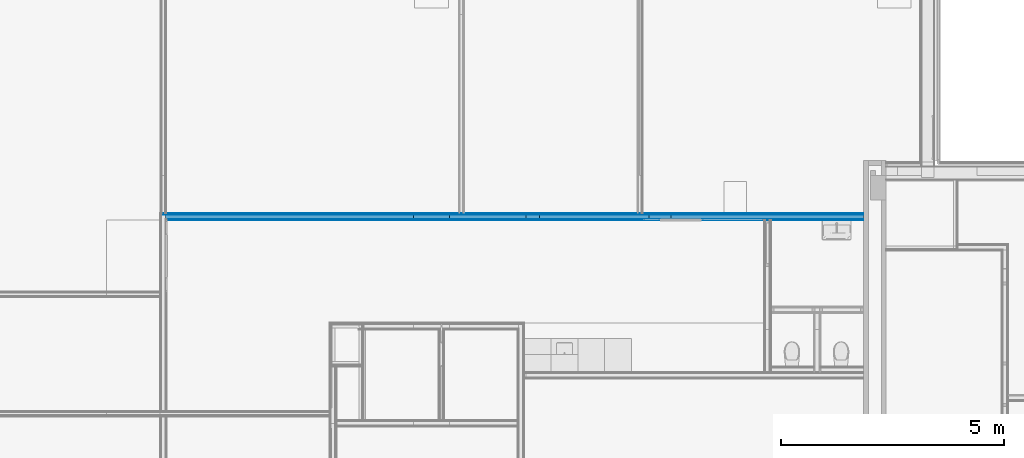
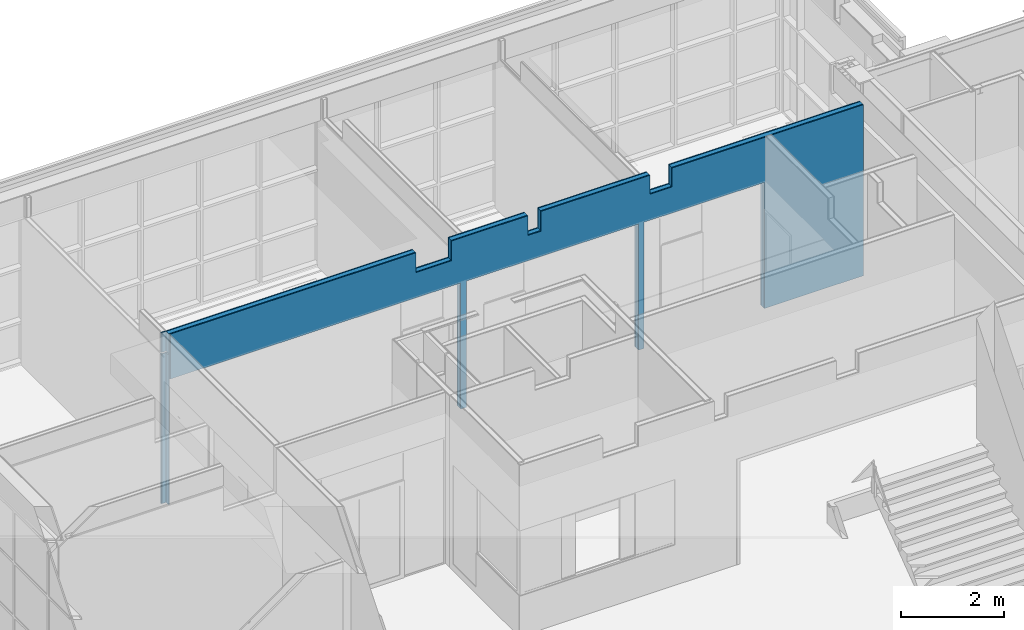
# One storey, part 47 of 109: 5 building element parts, 3 openings, 1 element without a shape of its own.
"""IFC2X3 building model written with IfcOpenShell, lengths in millimetres."""

from ifc_helpers import new_model, entity, si_unit, converted_unit, derived_unit, money_unit, direction, frame, origin_with_axes, place, context, subcontext, project, spatial, faceted_brep, material, type_object, element, aggregate, save


model = new_model("IFC2X3")

# Units and contexts
model_context = context("Model", 3, precision=0.01, world=origin_with_axes(), true_north=direction((0.0, 1.0)))
body_context = subcontext(model_context, "Body", "Model", "MODEL_VIEW")
ifc_project = project(units=[si_unit("LENGTHUNIT", "METRE", prefix="MILLI"), si_unit("AREAUNIT", "SQUARE_METRE"), si_unit("VOLUMEUNIT", "CUBIC_METRE"), converted_unit("PLANEANGLEUNIT", "DEGREE", entity("IfcPlaneAngleMeasure", 0.0174532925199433), si_unit("PLANEANGLEUNIT", "RADIAN"), dimensions=[0, 0, 0, 0, 0, 0, 0]), money_unit("EUR"), converted_unit("TIMEUNIT", "Year", entity("IfcTimeMeasure", 31557600.0), si_unit("TIMEUNIT", "SECOND"), dimensions=[0, 0, 1, 0, 0, 0, 0]), si_unit("MASSUNIT", "GRAM", prefix="KILO"), si_unit("THERMODYNAMICTEMPERATUREUNIT", "DEGREE_CELSIUS"), si_unit("LUMINOUSINTENSITYUNIT", "LUMEN"), si_unit("ENERGYUNIT", "JOULE", prefix="MEGA"), derived_unit("THERMALCONDUCTANCEUNIT", [(si_unit("POWERUNIT", "WATT"), 1), (si_unit("LENGTHUNIT", "METRE"), -1), (si_unit("THERMODYNAMICTEMPERATUREUNIT", "KELVIN"), -1)]), derived_unit("SPECIFICHEATCAPACITYUNIT", [(si_unit("ENERGYUNIT", "JOULE"), 1), (si_unit("MASSUNIT", "GRAM", prefix="KILO"), -1), (si_unit("THERMODYNAMICTEMPERATUREUNIT", "KELVIN"), -1)]), derived_unit("MASSDENSITYUNIT", [(si_unit("MASSUNIT", "GRAM", prefix="KILO"), 1), (si_unit("VOLUMEUNIT", "CUBIC_METRE"), -1)])], contexts=[model_context])

# Site, building, storey
site_placement = place(None, origin_with_axes())
site = spatial("IfcSite", under=ifc_project, at=site_placement, Name="<site naam>", CompositionType="ELEMENT")
building_placement = place(site_placement, origin_with_axes())
building = spatial("IfcBuilding", under=site, at=building_placement, Name="<Naam gebouw>", CompositionType="ELEMENT")
storey_placement = place(building_placement, origin_with_axes())
storey = spatial("IfcBuildingStorey", under=building, at=storey_placement, Name="00 Begane grond", CompositionType="ELEMENT", Elevation=0.0)

# Wall, openings, building element parts
wall_type = type_object("IfcWallType", Name="MS-01 GF 150 ECO DGS/2.100.2.A 150", PredefinedType="NOTDEFINED")
wall_placement = place(storey_placement, frame((11665.00000000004, 18999.99999999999, 0.0), z_axis=(0.0, 0.0, 1.0), x_axis=(-1.0, 0.0, 0.0)))
wall = element("IfcWall", 1, at=wall_placement, inside=storey, type_object=wall_type, Name="22_Binnenwand_MS-01")
opening_1_placement = place(wall_placement, frame((3581.926295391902, 0.0, 0.0), z_axis=(0.0, 0.0, 1.0), x_axis=(1.0, 0.0, 0.0)))
element("IfcOpeningElement", 2, at=opening_1_placement, cuts=wall, Name="22_BI-F-07_305", context=body_context, shape_type="Brep", body=[
    faceted_brep([(-1353.907037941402, -150.9999999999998, 3000.0), (-1353.907037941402, -150.9999999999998, 0.0), (1353.907037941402, -150.9999999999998, 0.0), (1353.907037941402, -150.9999999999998, 3000.0), (-1353.907037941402, 1.000000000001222, 3000.0), (-1353.907037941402, 1.000000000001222, 0.0), (1353.907037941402, 1.000000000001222, 0.0), (1353.907037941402, 1.000000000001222, 3000.0)], [[[0, 1, 2, 3]], [[4, 5, 1, 0]], [[5, 6, 2, 1]], [[6, 7, 3, 2]], [[7, 4, 0, 3]], [[6, 5, 4, 7]]]),
])
opening_2_placement = place(wall_placement, frame((12331.66666666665, 0.0, 0.0), z_axis=(0.0, 0.0, 1.0), x_axis=(1.0, 0.0, 0.0)))
element("IfcOpeningElement", 3, at=opening_2_placement, cuts=wall, Name="22_BI-F-04_305", context=body_context, shape_type="Brep", body=[
    faceted_brep([(-3270.833333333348, -151.0000000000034, 3000.0), (-3270.833333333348, -151.0000000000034, 0.0), (3270.833333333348, -151.0000000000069, 0.0), (3270.833333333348, -151.0000000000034, 3000.0), (-3270.833333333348, 1.000000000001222, 3000.0), (-3270.833333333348, 1.000000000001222, 0.0), (3270.833333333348, 0.9999999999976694, 0.0), (3270.833333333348, 1.000000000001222, 3000.0)], [[[0, 1, 2, 3]], [[4, 5, 1, 0]], [[5, 6, 2, 1]], [[6, 7, 3, 2]], [[7, 4, 0, 3]], [[6, 5, 4, 7]]]),
])
opening_3_placement = place(wall_placement, frame((6998.333333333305, 0.0, 0.0), z_axis=(0.0, 0.0, 1.0), x_axis=(1.0, 0.0, 0.0)))
element("IfcOpeningElement", 4, at=opening_3_placement, cuts=wall, Name="22_BI-F-05_305", context=body_context, shape_type="Brep", body=[
    faceted_brep([(-1937.499999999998, -150.9999999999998, 3000.0), (-1937.499999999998, -150.9999999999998, 0.0), (1937.499999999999, -150.9999999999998, 0.0), (1937.499999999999, -150.9999999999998, 3000.0), (-1937.499999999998, 1.000000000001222, 3000.0), (-1937.499999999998, 1.000000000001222, 0.0), (1937.499999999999, 1.000000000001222, 0.0), (1937.499999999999, 1.000000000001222, 3000.0)], [[[0, 1, 2, 3]], [[4, 5, 1, 0]], [[5, 6, 2, 1]], [[6, 7, 3, 2]], [[7, 4, 0, 3]], [[6, 5, 4, 7]]]),
])
ifc_material_1 = material(Name="gipsplaat")
building_element_part_1_placement = place(wall_placement, origin_with_axes())
building_element_part_1 = element("IfcBuildingElementPart", 5, at=building_element_part_1_placement, material=ifc_material_1, Name="gipsplaat", context=body_context, shape_type="Brep", body=[
    faceted_brep([(4802.5, -12.49999999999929, 4070.0), (4802.5, -12.49999999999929, 3620.0), (4302.5, -12.49999999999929, 3620.0), (4302.5, -12.49999999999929, 4070.0), (0.0, -12.49999999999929, 4070.0), (0.0, -12.49999999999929, 0.0), (2218.019240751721, -12.49999999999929, 0.0), (2218.019240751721, -12.49999999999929, 3.000000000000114), (4935.833333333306, -12.49999999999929, 3.000000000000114), (4935.833333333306, -12.49999999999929, 0.0), (5060.83331531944, -12.49999999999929, 0.0), (5060.83331531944, -12.49999999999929, 3.000000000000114), (8935.833333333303, -12.49999999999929, 3.000000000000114), (8935.833333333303, -12.49999999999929, 0.0), (9060.833333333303, -12.49999999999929, 0.0), (9060.833333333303, -12.49999999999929, 3.000000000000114), (15590.0, -12.49999999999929, 3.000000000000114), (15590.0, -12.49999999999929, 4070.0), (10065.00000000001, -12.49999999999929, 4070.0), (10065.00000000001, -12.49999999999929, 3600.0), (9265.000000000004, -12.49999999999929, 3600.0), (9265.000000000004, -12.49999999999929, 4070.0), (7550.000000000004, -12.49999999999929, 4070.0), (7550.000000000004, -12.49999999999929, 3600.0), (7250.000000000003, -12.49999999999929, 3600.0), (7250.000000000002, -12.49999999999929, 4070.0), (4802.5, 0.0, 3620.0), (4802.5, 0.0, 4070.0), (4302.5, 0.0, 3620.0), (4302.5, 0.0, 4070.0), (0.0, 0.0, 4070.0), (0.0, 0.0, 0.0), (2218.019240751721, 0.0, 0.0), (2218.019240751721, 0.0, 3.000000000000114), (4935.833333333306, 0.0, 3.000000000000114), (4935.833333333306, 0.0, 0.0), (5060.83331531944, 0.005247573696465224, 0.0), (5060.83331531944, 0.005247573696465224, 3.000000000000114), (8935.833333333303, 7.570282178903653e-06, 3.000000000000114), (8935.833333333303, 7.570282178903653e-06, 0.0), (9060.833333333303, 0.0, 0.0), (9060.833333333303, 0.0, 3.000000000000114), (15589.99999996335, -0.01546946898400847, 3.000000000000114), (15590.0, 0.0, 4070.0), (10065.00000000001, 0.0, 4070.0), (10065.00000000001, 0.0, 3600.0), (9265.000000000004, 0.0, 3600.0), (9265.000000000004, 0.0, 4070.0), (7550.000000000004, 0.0, 4070.0), (7550.000000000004, 0.0, 3600.0), (7250.000000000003, 0.0, 3600.0), (7250.000000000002, 0.0, 4070.0)], [[[0, 1, 2, 3, 4, 5, 6, 7, 8, 9, 10, 11, 12, 13, 14, 15, 16, 17, 18, 19, 20, 21, 22, 23, 24, 25]], [[26, 1, 0, 27]], [[28, 2, 1, 26]], [[28, 29, 3, 2]], [[4, 3, 29, 30]], [[4, 30, 31, 5]], [[31, 32, 6, 5]], [[33, 7, 6, 32]], [[34, 8, 7, 33]], [[35, 9, 8, 34]], [[36, 10, 9, 35]], [[11, 10, 36, 37]], [[12, 11, 37, 38]], [[13, 12, 38, 39]], [[14, 13, 39, 40]], [[14, 40, 41, 15]], [[15, 41, 42, 16]], [[42, 43, 17, 16]], [[17, 43, 44, 18]], [[44, 45, 19, 18]], [[45, 46, 20, 19]], [[20, 46, 47, 21]], [[21, 47, 48, 22]], [[48, 49, 23, 22]], [[49, 50, 24, 23]], [[24, 50, 51, 25]], [[51, 27, 0, 25]], [[28, 26, 27, 51, 50, 49, 48, 47, 46, 45, 44, 43, 34, 33, 32, 31, 30, 29]], [[36, 35, 34, 37]], [[39, 38, 37, 43, 42, 41, 40]], [[37, 34, 43]]]),
])
building_element_part_2_placement = place(wall_placement, origin_with_axes())
building_element_part_2 = element("IfcBuildingElementPart", 6, at=building_element_part_2_placement, material=ifc_material_1, Name="gipsplaat", context=body_context, shape_type="Brep", body=[
    faceted_brep([(4802.5, -24.99999999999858, 4070.0), (4802.5, -25.00000000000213, 3620.0), (4302.5, -25.00000000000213, 3620.0), (4302.5, -24.99999999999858, 4070.0), (0.0, -24.99999999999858, 4070.0), (0.0, -24.99999999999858, 0.0), (2218.019240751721, -24.99999999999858, 0.0), (2218.019240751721, -25.00000000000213, 3.000000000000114), (4935.833333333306, -25.00000000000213, 3.000000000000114), (4935.833333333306, -24.99999999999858, 0.0), (5060.83331531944, -24.99999999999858, 0.0), (5060.83331531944, -25.00000000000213, 3.000000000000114), (8935.833333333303, -25.00000000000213, 3.000000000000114), (8935.833333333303, -25.00000000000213, 0.0), (9060.833333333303, -25.00000000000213, 0.0), (9060.833333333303, -25.00000000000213, 3.000000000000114), (15602.5, -25.00000000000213, 3.000000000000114), (15602.5, -25.00000000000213, 3560.0), (15590.0000000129, -25.00000000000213, 3560.0), (15590.0000000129, -25.00000000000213, 3600.0), (15602.5, -25.00000000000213, 3600.0), (15602.5, -25.00000000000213, 4070.0), (10065.00000000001, -24.99999999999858, 4070.0), (10065.00000000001, -25.00000000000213, 3600.0), (9265.000000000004, -25.00000000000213, 3600.0), (9265.000000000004, -24.99999999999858, 4070.0), (7550.000000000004, -24.99999999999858, 4070.0), (7550.000000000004, -25.00000000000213, 3600.0), (7250.000000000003, -25.00000000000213, 3600.0), (7250.000000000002, -24.99999999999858, 4070.0), (4802.5, -12.49999999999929, 3620.0), (4802.5, -12.49999999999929, 4070.0), (4302.5, -12.49999999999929, 3620.0), (4302.5, -12.49999999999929, 4070.0), (0.0, -12.49999999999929, 4070.0), (0.0, -12.49999999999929, 0.0), (2218.019240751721, -12.49999999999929, 0.0), (2218.019240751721, -12.49999999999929, 3.000000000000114), (4935.833333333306, -12.49999999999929, 3.000000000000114), (4935.833333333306, -12.49999999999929, 0.0), (5060.83331531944, -12.49999999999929, 0.0), (5060.83331531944, -12.49999999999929, 3.000000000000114), (8935.833333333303, -12.49999999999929, 3.000000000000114), (8935.833333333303, -12.49999999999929, 0.0), (9060.833333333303, -12.49999999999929, 0.0), (9060.833333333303, -12.49999999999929, 3.000000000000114), (15602.5, -12.49999999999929, 3.000000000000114), (15602.5, -12.49999999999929, 3560.0), (15589.99999999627, -12.49999999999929, 3560.0), (15589.99999999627, -12.49999999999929, 3600.0), (15602.5, -12.49999999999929, 3600.0), (15602.5, -12.49999999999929, 4070.0), (10065.00000000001, -12.49999999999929, 4070.0), (10065.00000000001, -12.49999999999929, 3600.0), (9265.000000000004, -12.49999999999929, 3600.0), (9265.000000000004, -12.49999999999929, 4070.0), (7550.000000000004, -12.49999999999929, 4070.0), (7550.000000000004, -12.49999999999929, 3600.0), (7250.000000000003, -12.49999999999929, 3600.0), (7250.000000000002, -12.49999999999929, 4070.0)], [[[0, 1, 2, 3, 4, 5, 6, 7, 8, 9, 10, 11, 12, 13, 14, 15, 16, 17, 18, 19, 20, 21, 22, 23, 24, 25, 26, 27, 28, 29]], [[30, 1, 0, 31]], [[32, 2, 1, 30]], [[32, 33, 3, 2]], [[4, 3, 33, 34]], [[4, 34, 35, 5]], [[6, 5, 35, 36]], [[6, 36, 37, 7]], [[7, 37, 38, 8]], [[8, 38, 39, 9]], [[10, 9, 39, 40]], [[10, 40, 41, 11]], [[11, 41, 42, 12]], [[12, 42, 43, 13]], [[14, 13, 43, 44]], [[14, 44, 45, 15]], [[15, 45, 46, 16]], [[17, 16, 46, 47]], [[17, 47, 48, 18]], [[18, 48, 49, 19]], [[19, 49, 50, 20]], [[50, 51, 21, 20]], [[21, 51, 52, 22]], [[52, 53, 23, 22]], [[53, 54, 24, 23]], [[24, 54, 55, 25]], [[25, 55, 56, 26]], [[56, 57, 27, 26]], [[57, 58, 28, 27]], [[28, 58, 59, 29]], [[59, 31, 0, 29]], [[32, 30, 31, 59, 58, 57, 56, 55, 54, 53, 52, 51, 50, 49, 48, 47, 46, 45, 44, 43, 42, 41, 40, 39, 38, 37, 36, 35, 34, 33]]]),
])
building_element_part_3_placement = place(wall_placement, origin_with_axes())
building_element_part_3 = element("IfcBuildingElementPart", 7, at=building_element_part_3_placement, material=ifc_material_1, Name="gipsplaat", context=body_context, shape_type="Brep", body=[
    faceted_brep([(4802.5, -137.4999999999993, 4070.0), (4802.5, -137.4999999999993, 3620.0), (4302.5, -137.4999999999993, 3620.0), (4302.5, -137.4999999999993, 4070.0), (0.0, -137.4999999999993, 4070.0), (0.0, -137.4999999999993, 0.0), (2218.019240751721, -137.4999999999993, 0.0), (2218.019240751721, -137.4999999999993, 3.000000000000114), (4935.833333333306, -137.4999999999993, 3.000000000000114), (4935.833333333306, -137.4999999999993, 0.0), (5060.83331531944, -137.4999999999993, 0.0), (5060.83331531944, -137.4999999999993, 3.000000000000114), (8935.833333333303, -137.4999999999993, 3.000000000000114), (8935.833333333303, -137.4999999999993, 0.0), (9060.833333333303, -137.4999999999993, 0.0), (9060.833333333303, -137.4999999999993, 3.000000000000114), (15602.5, -137.4999999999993, 3.000000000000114), (15602.5, -137.4999999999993, 0.0), (15715.0, -137.4999999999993, 0.0), (15715.0, -137.4999999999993, 3560.0), (15590.00000016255, -137.4999999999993, 3560.0), (15590.00000016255, -137.4999999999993, 3600.0), (15715.0, -137.4999999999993, 3600.0), (15715.0, -137.4999999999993, 4070.0), (10065.00000000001, -137.4999999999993, 4070.0), (10065.00000000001, -137.4999999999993, 3600.0), (9265.000000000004, -137.4999999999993, 3600.0), (9265.000000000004, -137.4999999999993, 4070.0), (7550.000000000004, -137.4999999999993, 4070.0), (7550.000000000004, -137.4999999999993, 3600.0), (7250.000000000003, -137.4999999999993, 3600.0), (7250.000000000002, -137.4999999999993, 4070.0), (4802.5, -125.0, 3620.0), (4802.5, -125.0, 4070.0), (4302.5, -125.0, 3620.0), (4302.5, -125.0, 4070.0), (0.0, -125.0, 4070.0), (0.0, -125.0, 0.0), (2218.019240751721, -125.0, 0.0), (2218.019240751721, -125.0, 3.000000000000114), (4935.833333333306, -125.0, 3.000000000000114), (4935.833333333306, -125.0, 0.0), (5060.83331531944, -125.0, 0.0), (5060.83331531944, -125.0, 3.000000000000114), (8935.833333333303, -125.0, 3.000000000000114), (8935.833333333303, -125.0, 0.0), (9060.833333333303, -125.0, 0.0), (9060.833333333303, -125.0, 3.000000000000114), (15602.5, -125.0, 3.000000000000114), (15602.5, -125.0, 0.0), (15715.0, -125.0, 0.0), (15715.0, -125.0, 3560.0), (15590.00000014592, -125.0, 3560.0), (15590.00000014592, -125.0, 3600.0), (15715.0, -125.0, 3600.0), (15715.0, -125.0, 4070.0), (10065.00000000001, -125.0, 4070.0), (10065.00000000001, -125.0, 3600.0), (9265.000000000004, -125.0, 3600.0), (9265.000000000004, -125.0, 4070.0), (7550.000000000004, -125.0, 4070.0), (7550.000000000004, -125.0, 3600.0), (7250.000000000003, -125.0, 3600.0), (7250.000000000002, -125.0, 4070.0)], [[[0, 1, 2, 3, 4, 5, 6, 7, 8, 9, 10, 11, 12, 13, 14, 15, 16, 17, 18, 19, 20, 21, 22, 23, 24, 25, 26, 27, 28, 29, 30, 31]], [[32, 1, 0, 33]], [[34, 2, 1, 32]], [[34, 35, 3, 2]], [[4, 3, 35, 36]], [[4, 36, 37, 5]], [[6, 5, 37, 38]], [[6, 38, 39, 7]], [[7, 39, 40, 8]], [[8, 40, 41, 9]], [[10, 9, 41, 42]], [[10, 42, 43, 11]], [[11, 43, 44, 12]], [[12, 44, 45, 13]], [[14, 13, 45, 46]], [[14, 46, 47, 15]], [[15, 47, 48, 16]], [[16, 48, 49, 17]], [[49, 50, 18, 17]], [[19, 18, 50, 51]], [[19, 51, 52, 20]], [[20, 52, 53, 21]], [[21, 53, 54, 22]], [[54, 55, 23, 22]], [[23, 55, 56, 24]], [[56, 57, 25, 24]], [[57, 58, 26, 25]], [[26, 58, 59, 27]], [[27, 59, 60, 28]], [[60, 61, 29, 28]], [[61, 62, 30, 29]], [[30, 62, 63, 31]], [[63, 33, 0, 31]], [[34, 32, 33, 63, 62, 61, 60, 59, 58, 57, 56, 55, 54, 53, 52, 51, 50, 49, 48, 47, 46, 45, 44, 43, 42, 41, 40, 39, 38, 37, 36, 35]]]),
])
ifc_material_2 = material(Name="isolatie_steenwol LSW")
building_element_part_4_placement = place(wall_placement, origin_with_axes())
building_element_part_4 = element("IfcBuildingElementPart", 8, at=building_element_part_4_placement, material=ifc_material_2, Name="isolatie_steenwol LSW", context=body_context, shape_type="Brep", body=[
    faceted_brep([(4802.5, -125.0, 4070.0), (4802.5, -125.0, 3620.0), (4302.5, -125.0, 3620.0), (4302.5, -125.0, 4070.0), (0.0, -125.0, 4070.0), (0.0, -125.0, 0.0), (2218.019240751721, -125.0, 0.0), (2218.019240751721, -125.0, 3.000000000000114), (4935.833333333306, -125.0, 3.000000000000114), (4935.833333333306, -125.0, 0.0), (5060.83331531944, -125.0, 0.0), (5060.83331531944, -125.0, 3.000000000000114), (8935.833333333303, -125.0, 3.000000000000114), (8935.833333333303, -125.0, 0.0), (9060.833333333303, -125.0, 0.0), (9060.833333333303, -125.0, 3.000000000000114), (15602.5, -125.0, 3.000000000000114), (15602.5, -125.0, 0.0), (15615.0, -125.0, 0.0), (15615.0, -125.0, 3560.0), (15590.00000014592, -125.0, 3560.0), (15590.00000014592, -125.0, 3600.0), (15615.0, -125.0, 3600.0), (15615.0, -125.0, 4070.0), (10065.00000000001, -125.0, 4070.0), (10065.00000000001, -125.0, 3600.0), (9265.000000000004, -125.0, 3600.0), (9265.000000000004, -125.0, 4070.0), (7550.000000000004, -125.0, 4070.0), (7550.000000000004, -125.0, 3600.0), (7250.000000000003, -125.0, 3600.0), (7250.000000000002, -125.0, 4070.0), (4802.5, -25.00000000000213, 3620.0), (4802.5, -24.99999999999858, 4070.0), (4302.5, -25.00000000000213, 3620.0), (4302.5, -24.99999999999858, 4070.0), (0.0, -24.99999999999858, 4070.0), (0.0, -24.99999999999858, 0.0), (2218.019240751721, -24.99999999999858, 0.0), (2218.019240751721, -25.00000000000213, 3.000000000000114), (4935.833333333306, -25.00000000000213, 3.000000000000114), (4935.833333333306, -24.99999999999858, 0.0), (5060.83331531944, -24.99999999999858, 0.0), (5060.83331531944, -25.00000000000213, 3.000000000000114), (8935.833333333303, -25.00000000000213, 3.000000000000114), (8935.833333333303, -24.99999999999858, 0.0), (9060.833333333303, -24.99999999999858, 0.0), (9060.833333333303, -25.00000000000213, 3.000000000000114), (15602.5, -25.00000000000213, 3.000000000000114), (15602.5, -25.00000000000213, 0.0), (15615.0, -25.00000000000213, 0.0), (15615.0, -25.00000000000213, 3560.0), (15590.0000000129, -25.00000000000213, 3560.0), (15590.0000000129, -25.00000000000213, 3600.0), (15615.0, -25.00000000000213, 3600.0), (15615.0, -25.00000000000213, 4070.0), (10065.00000000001, -24.99999999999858, 4070.0), (10065.00000000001, -25.00000000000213, 3600.0), (9265.000000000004, -25.00000000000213, 3600.0), (9265.000000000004, -24.99999999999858, 4070.0), (7550.000000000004, -24.99999999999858, 4070.0), (7550.000000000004, -25.00000000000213, 3600.0), (7250.000000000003, -25.00000000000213, 3600.0), (7250.000000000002, -24.99999999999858, 4070.0)], [[[0, 1, 2, 3, 4, 5, 6, 7, 8, 9, 10, 11, 12, 13, 14, 15, 16, 17, 18, 19, 20, 21, 22, 23, 24, 25, 26, 27, 28, 29, 30, 31]], [[32, 1, 0, 33]], [[34, 2, 1, 32]], [[34, 35, 3, 2]], [[4, 3, 35, 36]], [[4, 36, 37, 5]], [[6, 5, 37, 38]], [[6, 38, 39, 7]], [[7, 39, 40, 8]], [[8, 40, 41, 9]], [[10, 9, 41, 42]], [[10, 42, 43, 11]], [[11, 43, 44, 12]], [[12, 44, 45, 13]], [[14, 13, 45, 46]], [[14, 46, 47, 15]], [[15, 47, 48, 16]], [[16, 48, 49, 17]], [[49, 50, 18, 17]], [[19, 18, 50, 51]], [[19, 51, 52, 20]], [[20, 52, 53, 21]], [[21, 53, 54, 22]], [[54, 55, 23, 22]], [[23, 55, 56, 24]], [[56, 57, 25, 24]], [[57, 58, 26, 25]], [[26, 58, 59, 27]], [[27, 59, 60, 28]], [[60, 61, 29, 28]], [[61, 62, 30, 29]], [[30, 62, 63, 31]], [[63, 33, 0, 31]], [[34, 32, 33, 63, 62, 61, 60, 59, 58, 57, 56, 55, 54, 53, 52, 51, 50, 49, 48, 47, 46, 45, 44, 43, 42, 41, 40, 39, 38, 37, 36, 35]]]),
])
building_element_part_5_placement = place(wall_placement, origin_with_axes())
building_element_part_5 = element("IfcBuildingElementPart", 9, at=building_element_part_5_placement, material=ifc_material_1, Name="gipsplaat", context=body_context, shape_type="Brep", body=[
    faceted_brep([(4802.5, -149.9999999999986, 4070.0), (4802.5, -150.0000000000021, 3620.0), (4302.5, -150.0000000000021, 3620.0), (4302.5, -149.9999999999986, 4070.0), (0.0, -149.9999999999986, 4070.0), (0.0, -149.9999999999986, 0.0), (2218.019240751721, -149.9999999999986, 0.0), (2218.019240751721, -150.0000000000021, 3.000000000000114), (4935.833333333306, -150.0000000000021, 3.000000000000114), (4935.833333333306, -149.9999999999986, 0.0), (5060.83331531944, -149.9999999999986, 0.0), (5060.83331531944, -150.0000000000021, 3.000000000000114), (8935.833333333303, -150.0000000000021, 3.000000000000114), (8935.833333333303, -149.9999999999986, 0.0), (9060.833333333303, -149.9999999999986, 0.0), (9060.833333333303, -150.0000000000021, 3.000000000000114), (15602.5, -150.0000000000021, 3.000000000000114), (15602.5, -150.0000000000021, 0.0), (15727.5, -150.0000000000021, 0.0), (15727.5, -150.0000000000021, 3560.0), (15590.00000017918, -150.0000006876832, 3560.0), (15590.00000017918, -150.0000006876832, 3600.0), (15727.5, -150.0000000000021, 3600.0), (15727.5, -150.0000000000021, 4070.0), (10065.00000000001, -149.9999999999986, 4070.0), (10065.00000000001, -150.0000000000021, 3600.0), (9265.000000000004, -150.0000000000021, 3600.0), (9265.000000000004, -149.9999999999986, 4070.0), (7550.000000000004, -149.9999999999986, 4070.0), (7550.000000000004, -150.0000000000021, 3600.0), (7250.000000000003, -150.0000000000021, 3600.0), (7250.000000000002, -149.9999999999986, 4070.0), (4802.5, -137.4999999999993, 3620.0), (4802.5, -137.4999999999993, 4070.0), (4302.5, -137.4999999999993, 3620.0), (4302.5, -137.4999999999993, 4070.0), (0.0, -137.4999999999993, 4070.0), (0.0, -137.4999999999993, 0.0), (2218.019240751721, -137.4999999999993, 0.0), (2218.019240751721, -137.4999999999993, 3.000000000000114), (4935.833333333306, -137.4999999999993, 3.000000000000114), (4935.833333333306, -137.4999999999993, 0.0), (5060.83331531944, -137.4999999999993, 0.0), (5060.83331531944, -137.4999999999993, 3.000000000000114), (8935.833333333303, -137.4999999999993, 3.000000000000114), (8935.833333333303, -137.4999999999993, 0.0), (9060.833333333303, -137.4999999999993, 0.0), (9060.833333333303, -137.4999999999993, 3.000000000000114), (15602.5, -137.4999999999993, 3.000000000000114), (15602.5, -137.4999999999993, 0.0), (15727.5, -137.4999999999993, 0.0), (15727.5, -137.4999999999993, 3560.0), (15590.00000016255, -137.4999999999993, 3560.0), (15590.00000016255, -137.4999999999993, 3600.0), (15727.5, -137.4999999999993, 3600.0), (15727.5, -137.4999999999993, 4070.0), (10065.00000000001, -137.4999999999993, 4070.0), (10065.00000000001, -137.4999999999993, 3600.0), (9265.000000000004, -137.4999999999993, 3600.0), (9265.000000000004, -137.4999999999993, 4070.0), (7550.000000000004, -137.4999999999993, 4070.0), (7550.000000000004, -137.4999999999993, 3600.0), (7250.000000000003, -137.4999999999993, 3600.0), (7250.000000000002, -137.4999999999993, 4070.0)], [[[0, 1, 2, 3, 4, 5, 6, 7, 8, 9, 10, 11, 12, 13, 14, 15, 16, 17, 18, 19, 20, 21, 22, 23, 24, 25, 26, 27, 28, 29, 30, 31]], [[32, 1, 0, 33]], [[34, 2, 1, 32]], [[34, 35, 3, 2]], [[4, 3, 35, 36]], [[5, 4, 36, 37]], [[6, 5, 37, 38]], [[6, 38, 39, 7]], [[7, 39, 40, 8]], [[8, 40, 41, 9]], [[10, 9, 41, 42]], [[10, 42, 43, 11]], [[11, 43, 44, 12]], [[12, 44, 45, 13]], [[14, 13, 45, 46]], [[14, 46, 47, 15]], [[15, 47, 48, 16]], [[16, 48, 49, 17]], [[49, 50, 18, 17]], [[19, 18, 50, 51]], [[19, 51, 52, 20]], [[20, 52, 53, 21]], [[21, 53, 54, 22]], [[54, 55, 23, 22]], [[23, 55, 56, 24]], [[56, 57, 25, 24]], [[57, 58, 26, 25]], [[26, 58, 59, 27]], [[27, 59, 60, 28]], [[60, 61, 29, 28]], [[61, 62, 30, 29]], [[30, 62, 63, 31]], [[63, 33, 0, 31]], [[34, 32, 33, 63, 62, 61, 60, 59, 58, 57, 56, 55, 54, 53, 52, 51, 50, 49, 48, 47, 46, 45, 44, 43, 42, 41, 40, 39, 38, 37, 36, 35]]]),
])
aggregate(wall, [building_element_part_1, building_element_part_2, building_element_part_3, building_element_part_4, building_element_part_5])

save(model, "model.ifc")
